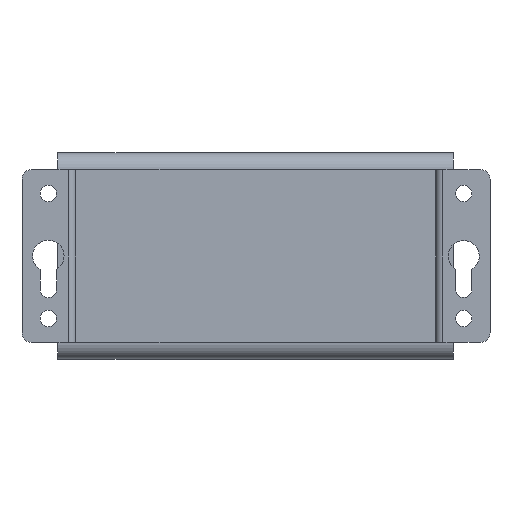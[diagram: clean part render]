
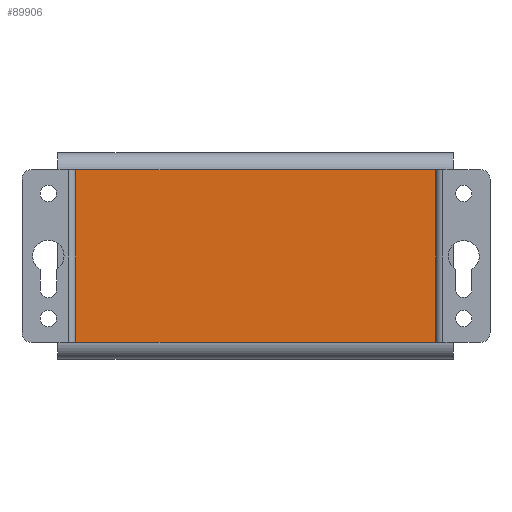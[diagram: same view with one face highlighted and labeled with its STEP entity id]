
A CAD part, front view. The second image highlights one B-rep face of the part: STEP entity #89906.
In plain terms, the highlighted planar face has unit normal (0, -1, 0).
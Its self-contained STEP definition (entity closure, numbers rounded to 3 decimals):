
#7189=FACE_OUTER_BOUND('',#11963,.T.);
#11963=EDGE_LOOP('',(#72167,#72168,#72169,#72170));
#14625=LINE('',#125827,#25110);
#16846=LINE('',#131312,#27331);
#20467=LINE('',#140680,#30952);
#20470=LINE('',#140686,#30955);
#25110=VECTOR('',#99222,10.);
#27331=VECTOR('',#103769,10.);
#30952=VECTOR('',#111766,10.);
#30955=VECTOR('',#111773,10.);
#35745=VERTEX_POINT('',#125774);
#35746=VERTEX_POINT('',#125778);
#37656=VERTEX_POINT('',#131250);
#37660=VERTEX_POINT('',#131265);
#44744=EDGE_CURVE('',#35745,#35746,#14625,.T.);
#47433=EDGE_CURVE('',#37660,#37656,#16846,.T.);
#51886=EDGE_CURVE('',#37660,#35746,#20467,.T.);
#51890=EDGE_CURVE('',#37656,#35745,#20470,.T.);
#72167=ORIENTED_EDGE('',*,*,#44744,.T.);
#72168=ORIENTED_EDGE('',*,*,#51886,.F.);
#72169=ORIENTED_EDGE('',*,*,#47433,.T.);
#72170=ORIENTED_EDGE('',*,*,#51890,.T.);
#85852=PLANE('',#95709);
#89906=ADVANCED_FACE('',(#7189),#85852,.T.);
#95709=AXIS2_PLACEMENT_3D('',#140959,#112045,#112046);
#99222=DIRECTION('',(0.,0.,1.));
#103769=DIRECTION('',(0.,0.,-1.));
#111766=DIRECTION('',(1.,0.,0.));
#111773=DIRECTION('',(1.,0.,0.));
#112045=DIRECTION('center_axis',(0.,-1.,0.));
#112046=DIRECTION('ref_axis',(0.,0.,-1.));
#125774=CARTESIAN_POINT('',(79.05,0.,-39.68));
#125778=CARTESIAN_POINT('',(79.05,0.,-3.5));
#125827=CARTESIAN_POINT('',(79.05,0.,-12.545));
#131250=CARTESIAN_POINT('',(3.75,0.,-39.68));
#131265=CARTESIAN_POINT('',(3.75,0.,-3.5));
#131312=CARTESIAN_POINT('',(3.75,0.,-12.545));
#140680=CARTESIAN_POINT('',(0.,0.,-3.5));
#140686=CARTESIAN_POINT('',(0.,0.,-39.68));
#140959=CARTESIAN_POINT('Origin',(0.,0.,-3.5));
